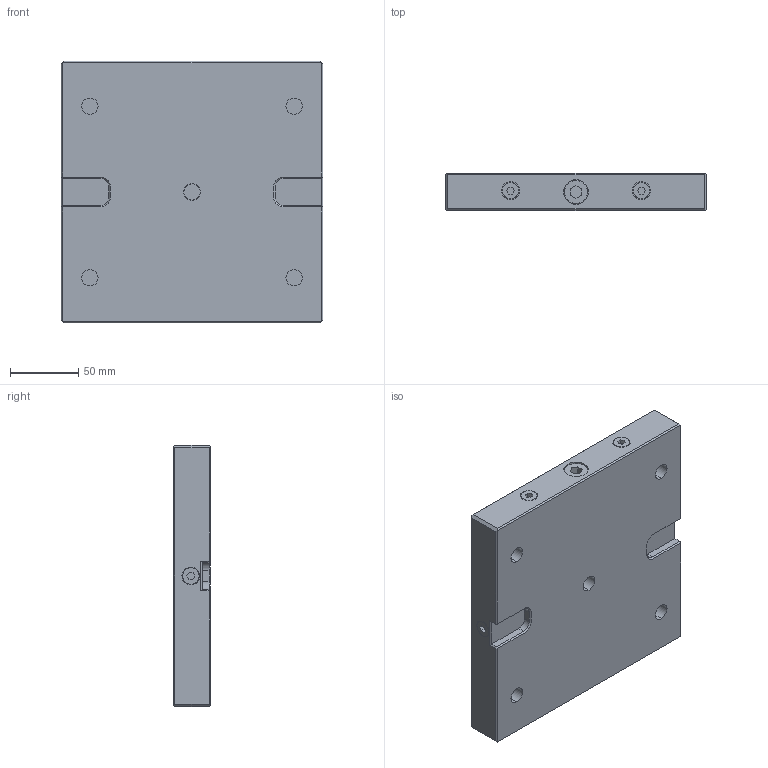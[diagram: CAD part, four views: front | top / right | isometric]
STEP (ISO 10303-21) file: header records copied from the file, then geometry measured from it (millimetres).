
FILE_DESCRIPTION (( 'STEP AP203' ), '1' );
FILE_NAME ('45763.STEP', '2017-02-09T10:07:54', ( '' ), ( '' ), 'SwSTEP 2.0', 'SolidWorks 2015', '' );
FILE_SCHEMA (( 'CONFIG_CONTROL_DESIGN' ));
Length unit declared in the file: millimetre
Products named in the file (1): 45763
Bounding box: 192 x 27 x 192 mm (x, y, z)
Volume: 876368.6 mm3; surface area: 132312.6 mm2
Topology: 12 solids, 12 shells, 275 faces, 634 edges, 391 vertices
Faces by surface type: plane 131, cylinder 96, cone 40, torus 8
Entity records: 8549 total; most frequent: CARTESIAN_POINT 2187, DIRECTION 1328, ORIENTED_EDGE 1268, EDGE_CURVE 634, AXIS2_PLACEMENT_3D 480, VERTEX_POINT 391, VECTOR 368, LINE 368
